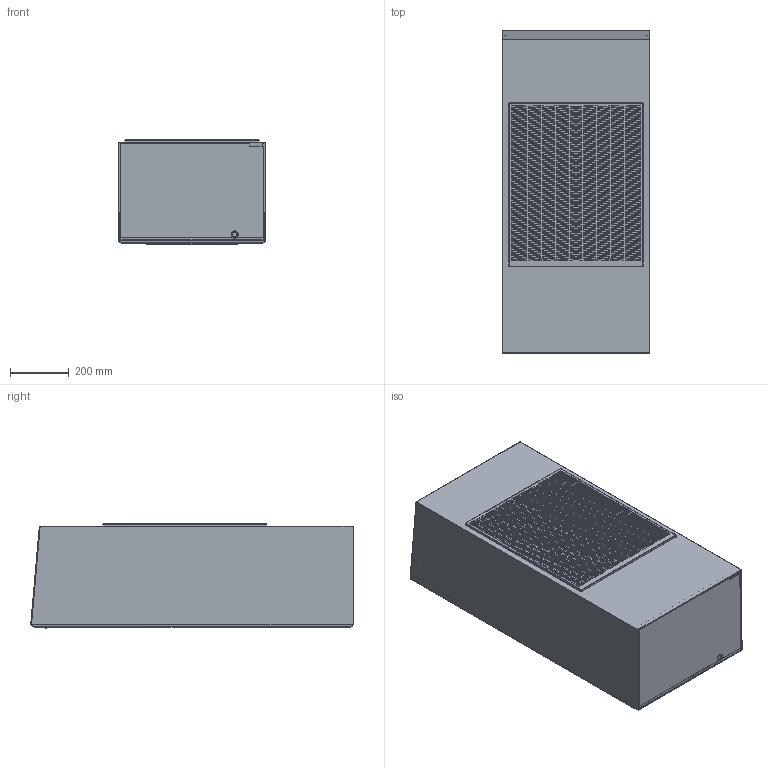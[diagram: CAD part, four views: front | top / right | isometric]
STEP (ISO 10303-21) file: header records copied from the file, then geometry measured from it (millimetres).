
FILE_DESCRIPTION(/* description */ (''),/* implementation_level */ '2;1');
FILE_NAME(/* name */ 'CCU40A403WNOyX',/* time_stamp */ '2024-06-14T10:02:28+02:00',/* author */ (''),/* organization */ (''),/* preprocessor_version */ 'ST-DEVELOPER v16.5',/* originating_system */ 'Rhino 7.37',/* authorisation */ '');
FILE_SCHEMA (('AUTOMOTIVE_DESIGN'));
Products named in the file (1): Document
Bounding box: 504.3 x 1102.35 x 355.5 mm (x, y, z)
Volume: 1992931.1 mm3; surface area: 4910429.5 mm2
Topology: 14 solids, 15 shells, 2937 faces, 8427 edges, 5527 vertices
Faces by surface type: plane 2663, cylinder 170, bspline 104
Entity records: 99081 total; most frequent: CARTESIAN_POINT 40298, ORIENTED_EDGE 16837, EDGE_CURVE 8426, B_SPLINE_CURVE_WITH_KNOTS 8316, VERTEX_POINT 5527, EDGE_LOOP 4068, ADVANCED_FACE 2937, FACE_OUTER_BOUND 2937
